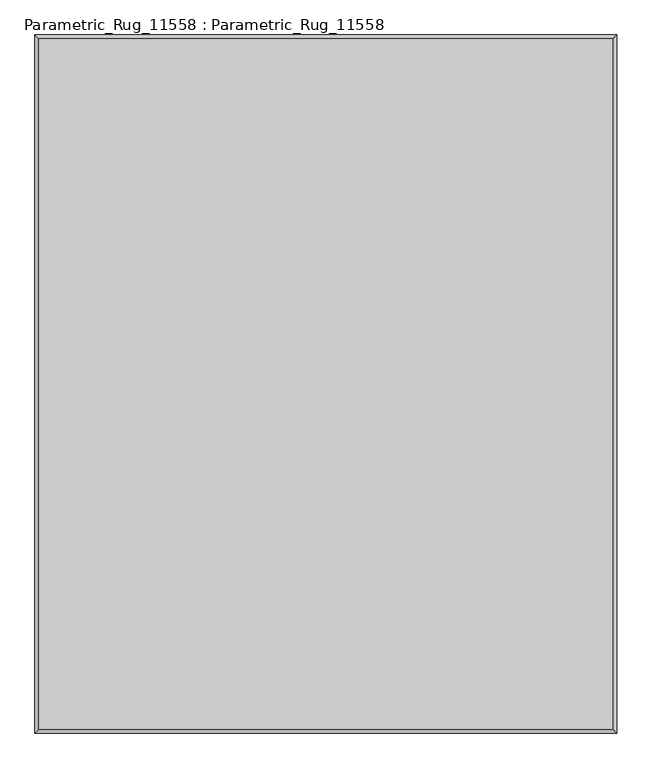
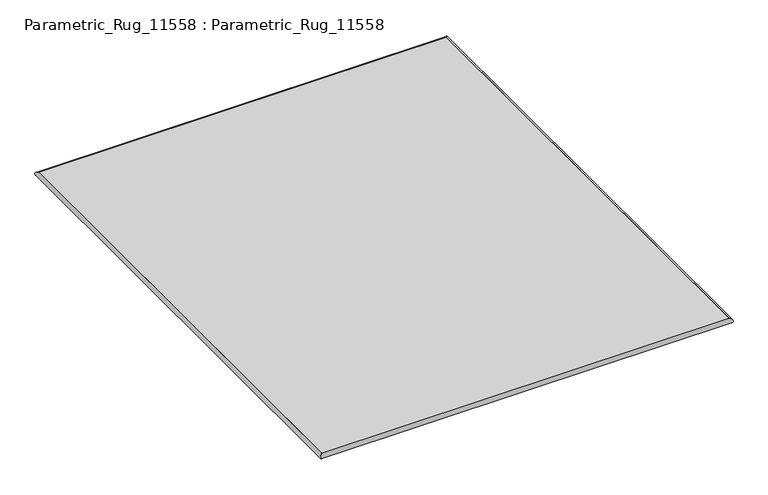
"""IFC4 building model written with IfcOpenShell, lengths in millimetres: furniture geometry, Parametric_Rug_11558 : Parametric_Rug_11558."""

from ifc_helpers import new_model, si_unit, frame, origin, origin_with_axes, place, context, project, spatial, polyline, ellipse_curve, outline, extrude, source, transform, mapped, element, save
from ifc_brep_helpers import plane_surface, cylinder_surface, advanced_brep


def parametric_rug_11558_parametric_rug_11558_85d9022c(model_context):
    return source(origin(), model_context, "Body", "SolidModel", [
        advanced_brep(
        [(2470.0, -2970.0, 0.0), (2470.0, -2970.0, 30.0), (2470.0, 0.0, 30.0), (2470.0, 0.0, 0.0), (0.0, 0.0, 30.0), (0.0, 0.0, 0.0), (0.0, -2970.0, 30.0), (0.0, -2970.0, 0.0)],
        [
            (0, 1),
            (1, 2),
            (2, 3),
            (3, 0),
            (1, 0, ellipse_curve(frame((2470.0, -2970.0, 15.0), z_axis=(0.7071067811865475, 0.7071067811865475, 0.0), x_axis=(0.7071067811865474, -0.7071067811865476, 0.0)), 21.2132034, 15.0)),
            (3, 2, ellipse_curve(frame((2470.0, 0.0, 15.0), z_axis=(0.7071067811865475, -0.7071067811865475, 0.0), x_axis=(-0.7071067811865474, -0.7071067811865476, 0.0)), 21.2132034, 15.0)),
            (2, 4),
            (4, 5),
            (5, 3),
            (5, 4, ellipse_curve(frame((0.0, 0.0, 15.0), z_axis=(0.7071067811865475, 0.7071067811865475, 0.0), x_axis=(0.7071067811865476, -0.7071067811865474, 0.0)), 21.2132034, 15.0)),
            (4, 6),
            (6, 7),
            (7, 5),
            (7, 6, ellipse_curve(frame((0.0, -2970.0, 15.0), z_axis=(-0.7071067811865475, 0.7071067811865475, 0.0), x_axis=(0.7071067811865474, 0.7071067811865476, 0.0)), 21.2132034, 15.0)),
            (6, 1),
            (0, 7),
        ],
        [
            plane_surface(frame((2470.0, -2970.0, 30.0), z_axis=(-1.0, 0.0, 0.0), x_axis=(0.0, 1.0, 0.0))),
            cylinder_surface(frame((2470.0, -2970.0, 15.0), z_axis=(0.0, -1.0, 0.0), x_axis=(-1.0, 0.0, 0.0)), 15.0),
            plane_surface(frame((2470.0, 0.0, 30.0), z_axis=(0.0, -1.0, 0.0), x_axis=(-1.0, 0.0, 0.0))),
            cylinder_surface(frame((2470.0, 0.0, 15.0), z_axis=(1.0, 0.0, 0.0), x_axis=(0.0, -1.0, 0.0)), 15.0),
            plane_surface(frame((0.0, 0.0, 30.0), z_axis=(1.0, 0.0, 0.0), x_axis=(0.0, -1.0, 0.0))),
            cylinder_surface(frame((0.0, 0.0, 15.0), z_axis=(0.0, 1.0, 0.0), x_axis=(1.0, 0.0, 0.0)), 15.0),
            plane_surface(frame((0.0, -2970.0, 30.0), z_axis=(0.0, 1.0, 0.0), x_axis=(1.0, 0.0, 0.0))),
            cylinder_surface(frame((0.0, -2970.0, 15.0), z_axis=(-1.0, 0.0, 0.0), x_axis=(0.0, 1.0, 0.0)), 15.0),
        ],
        [
            (0, [[1, 2, 3, 4]]),
            (1, [[5, -4, 6, -2]]),
            (2, [[-3, 7, 8, 9]]),
            (3, [[-6, -9, 10, -7]]),
            (4, [[-8, 11, 12, 13]]),
            (5, [[-10, -13, 14, -11]]),
            (6, [[-12, 15, -1, 16]]),
            (7, [[-14, -16, -5, -15]]),
        ],
    ),
        extrude(outline(polyline([(2470.0, 0.0), (2470.0, -2970.0), (0.0, -2970.0), (0.0, 0.0), (2470.0, 0.0)])), origin_with_axes(), (0.0, 0.0, 1.0), 30.0),
    ])


if __name__ == "__main__":
    model = new_model("IFC4")
    model_context = context("Model", 3, world=origin())
    ifc_project = project(units=[si_unit("LENGTHUNIT", "METRE", prefix="MILLI")], contexts=[model_context])
    site = spatial("IfcSite", under=ifc_project)
    building = spatial("IfcBuilding", under=site)
    placement = place(None, origin())
    parametric_rug_11558_parametric_rug_11558_shape = parametric_rug_11558_parametric_rug_11558_85d9022c(model_context)
    element("IfcFurniture", 1, ObjectType="Parametric_Rug_11558 : Parametric_Rug_11558", at=placement, inside=building, context=model_context, shape_type="MappedRepresentation", body=[
        mapped(parametric_rug_11558_parametric_rug_11558_shape, transform((0.0, 0.0, 0.0), x_axis=(1.0, 0.0, 0.0), y_axis=(0.0, 1.0, 0.0), z_axis=(0.0, 0.0, 1.0))),
    ])
    save(model, "model.ifc")
